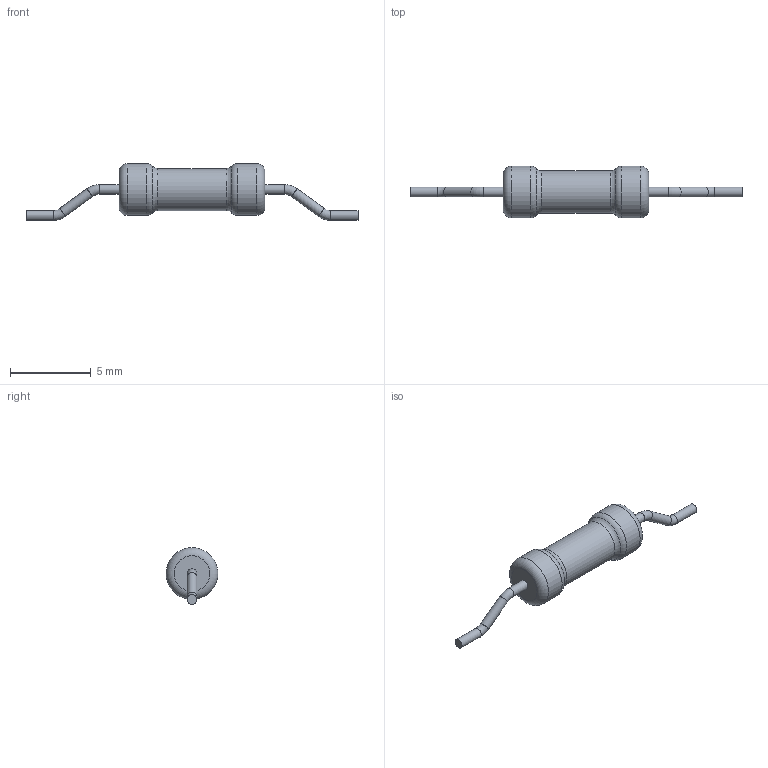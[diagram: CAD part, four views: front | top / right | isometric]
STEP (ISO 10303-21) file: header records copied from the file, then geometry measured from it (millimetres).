
FILE_DESCRIPTION(('STEP AP203'), '1');
FILE_NAME('R1-72-1M(3)', '', ('UNSPECIFIED'), ('UNSPECIFIED'), 'ASCON STEP Converter 1.6', 'ASCON Math Kernel', '');
FILE_SCHEMA(('CONFIG_CONTROL_DESIGN'));
Length unit declared in the file: millimetre
Bounding box: 20.5 x 3.2 x 3.5 mm (x, y, z)
Volume: 61.4 mm3; surface area: 117.7 mm2
Topology: 1 solids, 1 shells, 23 faces, 41 edges, 22 vertices
Faces by surface type: torus 10, cylinder 9, plane 4
Full cylindrical faces by diameter (mm): 0.6 x6, 2.6 x1, 3.2 x2
Entity records: 682 total; most frequent: DIRECTION 92, CARTESIAN_POINT 68, AXIS2_PLACEMENT_3D 46, EDGE_LOOP 44, ORIENTED_EDGE 44, FACE_OUTER_BOUND 38, COLOUR_RGB 24, FILL_AREA_STYLE_COLOUR 24
